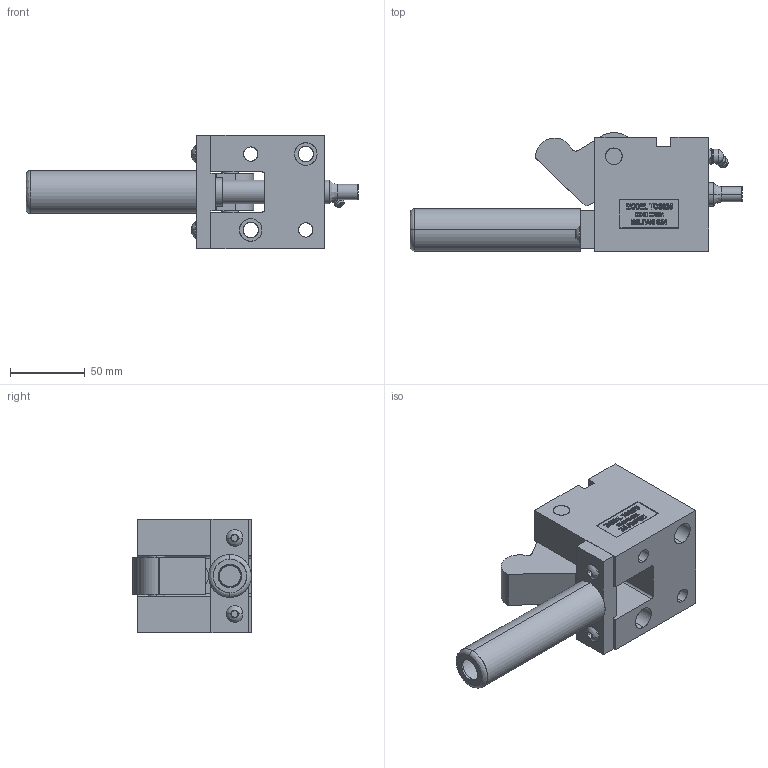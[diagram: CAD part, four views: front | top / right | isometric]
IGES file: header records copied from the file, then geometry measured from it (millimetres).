
Start section: SolidWorks IGES file using analytic representation for surfaces
Global section: file name: Y:\JIM'S INCH CAM UNITS\TOS62545\OPEN\TOS62545-O.IGS; native system: SolidWorks 2006 by SolidWorks Corporation; preprocessor: SolidWorks 2006 by SolidWorks Corporation; author: Jim; date: 090210.174411; units: inch
Bounding box: 222.12 x 79.37 x 76.2 mm (x, y, z)
Surface area: 97819.9 mm2 (no closed solid volume)
Topology: 0 solids, 0 shells, 589 faces, 7137 edges, 7133 vertices
Faces by surface type: bspline 475, revolution 114
